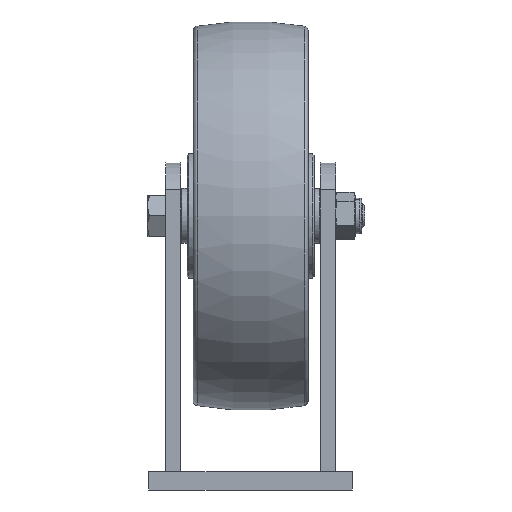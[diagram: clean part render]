
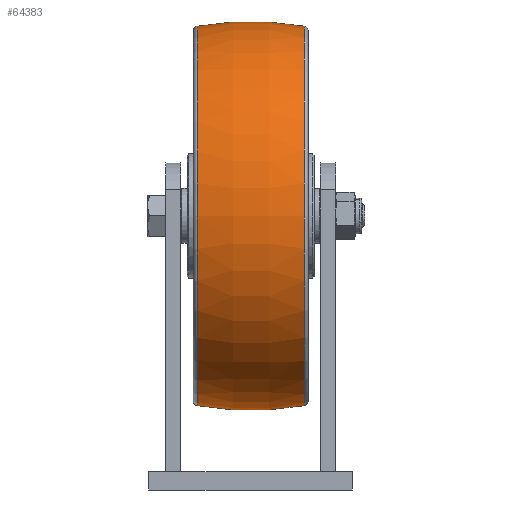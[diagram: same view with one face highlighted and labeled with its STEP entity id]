
A CAD part, left-side view. The second image highlights one B-rep face of the part: STEP entity #64383.
In plain terms, the highlighted toroidal (fillet/blend) face has major radius 73 mm and minor radius 200 mm.
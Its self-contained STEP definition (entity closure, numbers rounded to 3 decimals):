
#2329 = CARTESIAN_POINT ( 'NONE',  ( 0., 0., 35.025 ) ) ;
#18007 = ORIENTED_EDGE ( 'NONE', *, *, #19907, .F. ) ;
#19907 = EDGE_CURVE ( 'NONE', #221783, #45737, #263141, .T. ) ;
#24588 = AXIS2_PLACEMENT_3D ( 'NONE', #70788, #228585, #27345 ) ;
#25630 = FACE_OUTER_BOUND ( 'NONE', #183182, .T. ) ;
#27345 = DIRECTION ( 'NONE',  ( 0., 1., 0. ) ) ;
#33644 = DIRECTION ( 'NONE',  ( 0., -1., 0. ) ) ;
#45136 = CARTESIAN_POINT ( 'NONE',  ( 0., 123.909, 35.025 ) ) ;
#45737 = VERTEX_POINT ( 'NONE', #287270 ) ;
#46238 = EDGE_CURVE ( 'NONE', #169040, #45737, #276705, .T. ) ;
#47390 = DIRECTION ( 'NONE',  ( 0., 0., 1. ) ) ;
#57769 = CARTESIAN_POINT ( 'NONE',  ( 0., -123.909, -35.025 ) ) ;
#57822 = CIRCLE ( 'NONE', #161682, 123.909 ) ;
#58277 = ORIENTED_EDGE ( 'NONE', *, *, #172903, .T. ) ;
#64383 = ADVANCED_FACE ( 'NONE', ( #25630 ), #258619, .T. ) ;
#70788 = CARTESIAN_POINT ( 'NONE',  ( 0., -73., 0. ) ) ;
#71377 = DIRECTION ( 'NONE',  ( 0., 0., 1. ) ) ;
#76780 = DIRECTION ( 'NONE',  ( 0., 0., 1. ) ) ;
#79031 = CARTESIAN_POINT ( 'NONE',  ( 0., 0., -35.025 ) ) ;
#90805 = DIRECTION ( 'NONE',  ( -1., 0., 0. ) ) ;
#92038 = EDGE_CURVE ( 'NONE', #98301, #221783, #247279, .T. ) ;
#98301 = VERTEX_POINT ( 'NONE', #258509 ) ;
#123083 = CARTESIAN_POINT ( 'NONE',  ( 0., 0., 0. ) ) ;
#130077 = AXIS2_PLACEMENT_3D ( 'NONE', #250579, #90805, #47390 ) ;
#139489 = ORIENTED_EDGE ( 'NONE', *, *, #92038, .F. ) ;
#161682 = AXIS2_PLACEMENT_3D ( 'NONE', #79031, #171703, #33644 ) ;
#169040 = VERTEX_POINT ( 'NONE', #57769 ) ;
#171703 = DIRECTION ( 'NONE',  ( 0., 0., 1. ) ) ;
#172903 = EDGE_CURVE ( 'NONE', #98301, #169040, #57822, .T. ) ;
#183182 = EDGE_LOOP ( 'NONE', ( #139489, #58277, #250047, #18007 ) ) ;
#191154 = DIRECTION ( 'NONE',  ( 0., -1., 0. ) ) ;
#194028 = AXIS2_PLACEMENT_3D ( 'NONE', #2329, #71377, #205518 ) ;
#205518 = DIRECTION ( 'NONE',  ( 0., -1., 0. ) ) ;
#221783 = VERTEX_POINT ( 'NONE', #45136 ) ;
#228585 = DIRECTION ( 'NONE',  ( 1., 0., 0. ) ) ;
#243709 = AXIS2_PLACEMENT_3D ( 'NONE', #123083, #76780, #191154 ) ;
#247279 = CIRCLE ( 'NONE', #24588, 200. ) ;
#250047 = ORIENTED_EDGE ( 'NONE', *, *, #46238, .T. ) ;
#250579 = CARTESIAN_POINT ( 'NONE',  ( 0., 73., 0. ) ) ;
#258509 = CARTESIAN_POINT ( 'NONE',  ( 0., 123.909, -35.025 ) ) ;
#258619 = TOROIDAL_SURFACE ( 'NONE', #243709, -73., 200. ) ;
#263141 = CIRCLE ( 'NONE', #194028, 123.909 ) ;
#276705 = CIRCLE ( 'NONE', #130077, 200. ) ;
#287270 = CARTESIAN_POINT ( 'NONE',  ( 0., -123.909, 35.025 ) ) ;
